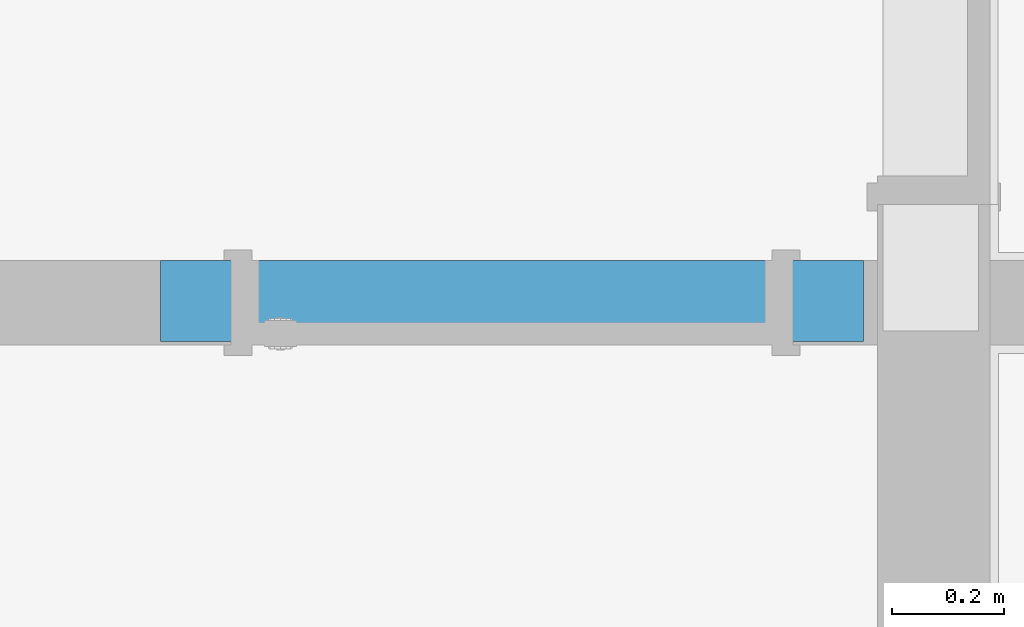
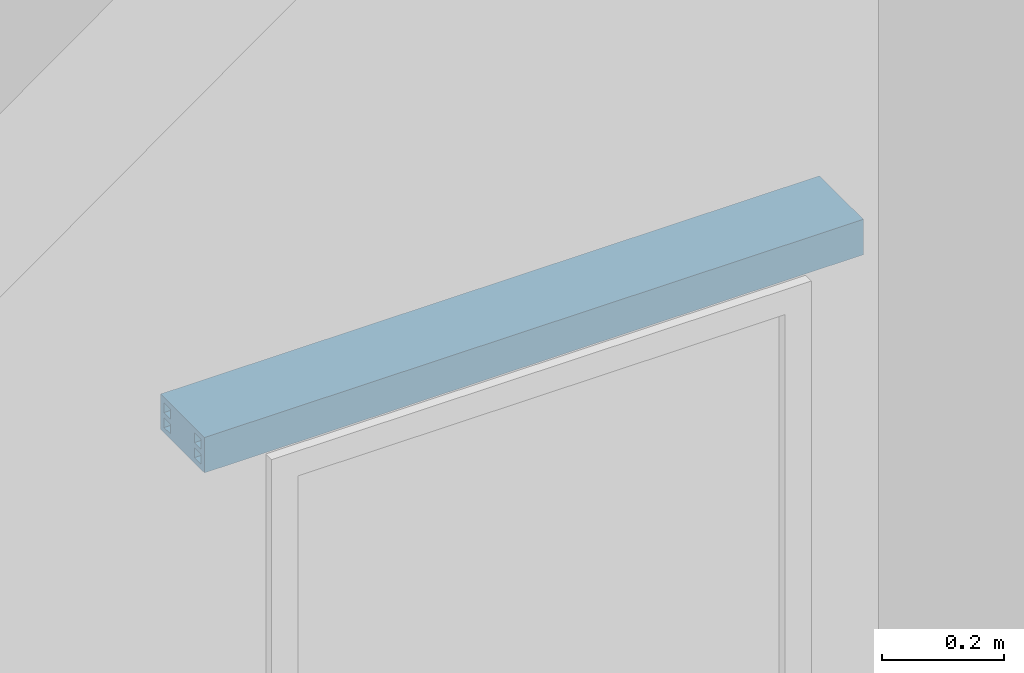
# One storey, part 5 of 21: 1 beam.
"""IFC4 building model written with IfcOpenShell, lengths in millimetres."""

from ifc_helpers import new_model, entity, si_unit, converted_unit, derived_unit, direction, frame, origin_with_axes, place, context, subcontext, project, spatial, polygons, source, transform, mapped, type_object, element, save


model = new_model("IFC4")

# Units and contexts
model_context = context("Model", 3, precision=0.01, world=origin_with_axes(), true_north=direction((0.0, 1.0)))
body_context = subcontext(model_context, "Body", "Model", "MODEL_VIEW")
ifc_project = project(units=[si_unit("LENGTHUNIT", "METRE", prefix="MILLI"), si_unit("AREAUNIT", "SQUARE_METRE"), si_unit("VOLUMEUNIT", "CUBIC_METRE"), converted_unit("PLANEANGLEUNIT", "DEGREE", entity("IfcPlaneAngleMeasure", 0.0174532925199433), si_unit("PLANEANGLEUNIT", "RADIAN"), dimensions=[0, 0, 0, 0, 0, 0, 0]), converted_unit("TIMEUNIT", "Year", entity("IfcTimeMeasure", 31557600.0), si_unit("TIMEUNIT", "SECOND"), dimensions=[0, 0, 1, 0, 0, 0, 0]), si_unit("MASSUNIT", "GRAM", prefix="KILO"), si_unit("THERMODYNAMICTEMPERATUREUNIT", "DEGREE_CELSIUS"), si_unit("LUMINOUSINTENSITYUNIT", "LUMEN"), si_unit("ENERGYUNIT", "JOULE", prefix="MEGA"), derived_unit("THERMALCONDUCTANCEUNIT", [(si_unit("POWERUNIT", "WATT"), 1), (si_unit("LENGTHUNIT", "METRE"), -1), (si_unit("THERMODYNAMICTEMPERATUREUNIT", "KELVIN"), -1)]), derived_unit("SPECIFICHEATCAPACITYUNIT", [(si_unit("ENERGYUNIT", "JOULE"), 1), (si_unit("MASSUNIT", "GRAM", prefix="KILO"), -1), (si_unit("THERMODYNAMICTEMPERATUREUNIT", "KELVIN"), -1)]), derived_unit("MASSDENSITYUNIT", [(si_unit("MASSUNIT", "GRAM", prefix="KILO"), 1), (si_unit("VOLUMEUNIT", "CUBIC_METRE"), -1)])], contexts=[model_context])

# Site, building, storey
site_placement = place(None, origin_with_axes())
site = spatial("IfcSite", under=ifc_project, at=site_placement, Name="Exteriér", CompositionType="ELEMENT")
building_placement = place(site_placement, origin_with_axes())
building = spatial("IfcBuilding", under=site, at=building_placement, Name="Univerzitní lezecké centrum", CompositionType="ELEMENT")
storey_placement = place(building_placement, frame((0.0, 0.0, -3350.0), z_axis=(0.0, 0.0, 1.0), x_axis=(1.0, 0.0, 0.0)))
storey = spatial("IfcBuildingStorey", under=building, at=storey_placement, Name="1.PP", CompositionType="ELEMENT", Elevation=-3350.0)

# Beam
beam_type = type_object("IfcBeamType", Name="PTH Překlad KP 11,5 a 14,5", PredefinedType="BEAM")
shared_shape = source(origin_with_axes(), body_context, "Body", "Tessellation", [
    polygons([(-625.0, 44.3486623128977, 71.00000000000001), (-625.0, 0.0, 71.00000000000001), (625.0, 0.0, 71.00000000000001), (625.0, 44.34866231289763, 71.00000000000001), (-625.0, 44.34866231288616, 36.49999605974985), (-625.0, 46.47223501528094, 31.73716465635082), (-625.0, 49.39641603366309, 27.4240948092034), (-625.0, 53.02998777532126, 23.69532943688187), (-625.0, 57.25960374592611, 20.66718452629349), (-625.0, 61.95332430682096, 18.4341207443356), (-625.0, 66.96473243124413, 17.06579680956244), (-625.0, 72.13750107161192, 16.60489654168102), (-625.0, 77.31026966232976, 17.06579737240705), (-625.0, 82.32167763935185, 18.43412185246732), (-625.0, 87.01539795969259, 20.66718614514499), (-625.0, 91.24501360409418, 23.69533151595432), (-625.0, 94.87858494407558, 27.42409728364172), (-625.0, 97.80276549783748, 31.7371674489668), (-625.0, 99.92633768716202, 36.49999908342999), (-625.0, 99.926337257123, 71.00000000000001), (-625.0, 144.274998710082, 71.0), (-625.0, 144.274998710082, 0.0), (-625.0, 0.0, 0.0), (-625.0, 11.4425, 10.49963740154), (-625.0, 33.3325, 10.49963740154), (-625.0, 33.3325, 30.49963740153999), (-625.0, 11.4425, 30.49963740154), (-625.0, 11.4425, 40.5), (-625.0, 33.3325, 40.5), (-625.0, 33.33250000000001, 60.5), (-625.0, 11.4425, 60.5), (-625.0, 132.83136377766, 10.49963740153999), (-625.0, 132.83136377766, 30.49963740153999), (-625.0, 110.94136377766, 30.49963740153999), (-625.0, 110.94136377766, 10.49963740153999), (-625.0, 110.94136377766, 60.49999999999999), (-625.0, 110.94136377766, 40.49999999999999), (-625.0, 132.83136377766, 40.49999999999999), (-625.0, 132.83136377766, 60.49999999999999), (625.0, 0.0, 0.0), (625.0, 144.2749987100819, 0.0), (625.0, 144.2749987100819, 71.0), (625.0, 99.92633725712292, 71.00000000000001), (625.0, 99.92633768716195, 36.49999908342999), (625.0, 97.80276549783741, 31.7371674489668), (625.0, 94.87858494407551, 27.42409728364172), (625.0, 91.24501360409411, 23.69533151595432), (625.0, 87.01539795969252, 20.66718614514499), (625.0, 82.32167763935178, 18.43412185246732), (625.0, 77.31026966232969, 17.06579737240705), (625.0, 72.13750107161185, 16.60489654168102), (625.0, 66.96473243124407, 17.06579680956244), (625.0, 61.95332430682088, 18.4341207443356), (625.0, 57.25960374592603, 20.66718452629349), (625.0, 53.02998777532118, 23.69532943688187), (625.0, 49.39641603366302, 27.4240948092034), (625.0, 46.47223501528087, 31.73716465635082), (625.0, 44.34866231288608, 36.49999605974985), (625.0, 11.44249999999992, 10.49963740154), (625.0, 11.44249999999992, 30.49963740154), (625.0, 33.33249999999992, 30.49963740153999), (625.0, 33.33249999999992, 10.49963740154), (625.0, 11.44249999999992, 40.5), (625.0, 11.44249999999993, 60.5), (625.0, 33.33249999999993, 60.5), (625.0, 33.33249999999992, 40.5), (625.0, 132.8313637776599, 10.49963740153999), (625.0, 110.9413637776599, 10.49963740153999), (625.0, 110.9413637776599, 30.49963740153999), (625.0, 132.8313637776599, 30.49963740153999), (625.0, 110.9413637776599, 60.49999999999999), (625.0, 132.8313637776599, 60.49999999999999), (625.0, 132.8313637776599, 40.49999999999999), (625.0, 110.9413637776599, 40.49999999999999)], [[[1, 2, 3, 4]], [[1, 5, 6, 7, 8, 9, 10, 11, 12, 13, 14, 15, 16, 17, 18, 19, 20, 21, 22, 23, 2], [24, 25, 26, 27], [28, 29, 30, 31], [32, 33, 34, 35], [36, 37, 38, 39]], [[2, 23, 40, 3]], [[4, 3, 40, 41, 42, 43, 44, 45, 46, 47, 48, 49, 50, 51, 52, 53, 54, 55, 56, 57, 58], [59, 60, 61, 62], [63, 64, 65, 66], [67, 68, 69, 70], [71, 72, 73, 74]], [[5, 1, 4, 58]], [[6, 5, 58, 57]], [[7, 6, 57, 56]], [[8, 7, 56, 55]], [[9, 8, 55, 54]], [[10, 9, 54, 53]], [[11, 10, 53, 52]], [[12, 11, 52, 51]], [[13, 12, 51, 50]], [[14, 13, 50, 49]], [[15, 14, 49, 48]], [[16, 15, 48, 47]], [[17, 16, 47, 46]], [[18, 17, 46, 45]], [[19, 18, 45, 44]], [[20, 19, 44, 43]], [[21, 20, 43, 42]], [[22, 21, 42, 41]], [[23, 22, 41, 40]], [[25, 24, 59, 62]], [[26, 25, 62, 61]], [[27, 26, 61, 60]], [[24, 27, 60, 59]], [[29, 28, 63, 66]], [[30, 29, 66, 65]], [[31, 30, 65, 64]], [[28, 31, 64, 63]], [[33, 32, 67, 70]], [[34, 33, 70, 69]], [[35, 34, 69, 68]], [[32, 35, 68, 67]], [[37, 36, 71, 74]], [[38, 37, 74, 73]], [[39, 38, 73, 72]], [[36, 39, 72, 71]]], closed=True),
    polygons([(-625.0, 44.34866231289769, 36.5), (-625.0, 46.47223492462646, 31.73716874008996), (625.0, 46.47223492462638, 31.73716874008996), (625.0, 44.34866231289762, 36.5), (-625.0, 44.3486623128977, 71.00000000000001), (-625.0, 99.926337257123, 71.00000000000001), (-625.0, 99.92633725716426, 36.50000000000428), (-625.0, 97.80276464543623, 31.7371687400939), (-625.0, 94.87858377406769, 27.42409899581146), (-625.0, 91.24501222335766, 23.69533367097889), (-625.0, 87.0153964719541, 20.66718874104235), (-625.0, 82.32167614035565, 18.43412486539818), (-625.0, 77.31026823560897, 17.06580075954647), (-625.0, 72.1374997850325, 16.60490024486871), (-625.0, 66.96473133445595, 17.06580075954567), (-625.0, 61.95332342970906, 18.4341248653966), (-625.0, 57.25960309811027, 20.66718874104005), (-625.0, 53.02998734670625, 23.69533367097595), (-625.0, 49.39641579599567, 27.42409899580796), (-625.0, 78.10749978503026, 42.49999925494), (-625.0, 78.01680207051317, 43.54188832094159), (-625.0, 77.74746473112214, 44.55212011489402), (-625.0, 77.30767144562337, 45.49999925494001), (-625.0, 76.71078511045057, 46.35672491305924), (-625.0, 75.97494181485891, 47.09626591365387), (-625.0, 75.12249978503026, 47.69615167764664), (-625.0, 74.17936004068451, 48.13815497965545), (-625.0, 73.17417940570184, 48.40884577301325), (-625.0, 72.13749978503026, 48.49999925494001), (-625.0, 71.1008201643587, 48.40884577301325), (-625.0, 70.09563952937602, 48.13815497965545), (-625.0, 69.15249978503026, 47.69615167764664), (-625.0, 68.30005775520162, 47.09626591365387), (-625.0, 67.56421445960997, 46.35672491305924), (-625.0, 66.96732812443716, 45.49999925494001), (-625.0, 66.5275348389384, 44.55212011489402), (-625.0, 66.25819749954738, 43.54188832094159), (-625.0, 66.16749978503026, 42.49999925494), (-625.0, 66.25819749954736, 41.45811018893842), (-625.0, 66.52753483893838, 40.44787839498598), (-625.0, 66.96732812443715, 39.49999925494), (-625.0, 67.56421445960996, 38.64327359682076), (-625.0, 68.3000577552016, 37.90373259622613), (-625.0, 69.15249978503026, 37.30384683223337), (-625.0, 70.09563952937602, 36.86184353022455), (-625.0, 71.1008201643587, 36.59115273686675), (-625.0, 72.13749978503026, 36.49999925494), (-625.0, 73.17417940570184, 36.59115273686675), (-625.0, 74.17936004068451, 36.86184353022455), (-625.0, 75.12249978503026, 37.30384683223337), (-625.0, 75.9749418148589, 37.90373259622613), (-625.0, 76.71078511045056, 38.64327359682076), (-625.0, 77.30767144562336, 39.49999925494), (-625.0, 77.74746473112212, 40.44787839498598), (-625.0, 78.01680207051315, 41.45811018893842), (625.0, 49.39641579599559, 27.42409899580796), (625.0, 53.02998734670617, 23.69533367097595), (625.0, 57.25960309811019, 20.66718874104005), (625.0, 61.95332342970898, 18.4341248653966), (625.0, 66.96473133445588, 17.06580075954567), (625.0, 72.13749978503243, 16.60490024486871), (625.0, 77.3102682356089, 17.06580075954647), (625.0, 82.32167614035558, 18.43412486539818), (625.0, 87.01539647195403, 20.66718874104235), (625.0, 91.24501222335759, 23.69533367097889), (625.0, 94.87858377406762, 27.42409899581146), (625.0, 97.80276464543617, 31.7371687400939), (625.0, 99.92633725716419, 36.50000000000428), (625.0, 99.92633725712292, 71.00000000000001), (625.0, 44.34866231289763, 71.00000000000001), (625.0, 78.10749978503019, 42.49999925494), (625.0, 78.01680207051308, 41.45811018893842), (625.0, 77.74746473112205, 40.44787839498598), (625.0, 77.30767144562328, 39.49999925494), (625.0, 76.71078511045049, 38.64327359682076), (625.0, 75.97494181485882, 37.90373259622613), (625.0, 75.12249978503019, 37.30384683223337), (625.0, 74.17936004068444, 36.86184353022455), (625.0, 73.17417940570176, 36.59115273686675), (625.0, 72.13749978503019, 36.49999925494), (625.0, 71.10082016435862, 36.59115273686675), (625.0, 70.09563952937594, 36.86184353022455), (625.0, 69.15249978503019, 37.30384683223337), (625.0, 68.30005775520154, 37.90373259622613), (625.0, 67.56421445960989, 38.64327359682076), (625.0, 66.96732812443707, 39.49999925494), (625.0, 66.52753483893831, 40.44787839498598), (625.0, 66.2581974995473, 41.45811018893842), (625.0, 66.16749978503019, 42.49999925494), (625.0, 66.25819749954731, 43.54188832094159), (625.0, 66.52753483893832, 44.55212011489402), (625.0, 66.96732812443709, 45.49999925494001), (625.0, 67.5642144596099, 46.35672491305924), (625.0, 68.30005775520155, 47.09626591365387), (625.0, 69.15249978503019, 47.69615167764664), (625.0, 70.09563952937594, 48.13815497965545), (625.0, 71.10082016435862, 48.40884577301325), (625.0, 72.13749978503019, 48.49999925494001), (625.0, 73.17417940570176, 48.40884577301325), (625.0, 74.17936004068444, 48.13815497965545), (625.0, 75.12249978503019, 47.69615167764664), (625.0, 75.97494181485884, 47.09626591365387), (625.0, 76.7107851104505, 46.35672491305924), (625.0, 77.3076714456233, 45.49999925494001), (625.0, 77.74746473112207, 44.55212011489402), (625.0, 78.0168020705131, 43.54188832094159)], [[[1, 2, 3, 4]], [[1, 5, 6, 7, 8, 9, 10, 11, 12, 13, 14, 15, 16, 17, 18, 19, 2], [20, 21, 22, 23, 24, 25, 26, 27, 28, 29, 30, 31, 32, 33, 34, 35, 36, 37, 38, 39, 40, 41, 42, 43, 44, 45, 46, 47, 48, 49, 50, 51, 52, 53, 54, 55]], [[2, 19, 56, 3]], [[4, 3, 56, 57, 58, 59, 60, 61, 62, 63, 64, 65, 66, 67, 68, 69, 70], [71, 72, 73, 74, 75, 76, 77, 78, 79, 80, 81, 82, 83, 84, 85, 86, 87, 88, 89, 90, 91, 92, 93, 94, 95, 96, 97, 98, 99, 100, 101, 102, 103, 104, 105, 106]], [[5, 1, 4, 70]], [[6, 5, 70, 69]], [[7, 6, 69, 68]], [[8, 7, 68, 67]], [[9, 8, 67, 66]], [[10, 9, 66, 65]], [[11, 10, 65, 64]], [[12, 11, 64, 63]], [[13, 12, 63, 62]], [[14, 13, 62, 61]], [[15, 14, 61, 60]], [[16, 15, 60, 59]], [[17, 16, 59, 58]], [[18, 17, 58, 57]], [[19, 18, 57, 56]], [[21, 20, 71, 106]], [[22, 21, 106, 105]], [[23, 22, 105, 104]], [[24, 23, 104, 103]], [[25, 24, 103, 102]], [[26, 25, 102, 101]], [[27, 26, 101, 100]], [[28, 27, 100, 99]], [[29, 28, 99, 98]], [[30, 29, 98, 97]], [[31, 30, 97, 96]], [[32, 31, 96, 95]], [[33, 32, 95, 94]], [[34, 33, 94, 93]], [[35, 34, 93, 92]], [[36, 35, 92, 91]], [[37, 36, 91, 90]], [[38, 37, 90, 89]], [[39, 38, 89, 88]], [[40, 39, 88, 87]], [[41, 40, 87, 86]], [[42, 41, 86, 85]], [[43, 42, 85, 84]], [[44, 43, 84, 83]], [[45, 44, 83, 82]], [[46, 45, 82, 81]], [[47, 46, 81, 80]], [[48, 47, 80, 79]], [[49, 48, 79, 78]], [[50, 49, 78, 77]], [[51, 50, 77, 76]], [[52, 51, 76, 75]], [[53, 52, 75, 74]], [[54, 53, 74, 73]], [[55, 54, 73, 72]], [[20, 55, 72, 71]]], closed=True),
    polygons([(-625.0, 66.16749978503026, 42.49999925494), (-625.0, 66.25819749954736, 41.45811018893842), (625.0, 66.2581974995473, 41.45811018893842), (625.0, 66.16749978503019, 42.49999925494), (-625.0, 66.25819749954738, 43.54188832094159), (-625.0, 66.5275348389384, 44.55212011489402), (-625.0, 66.96732812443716, 45.49999925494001), (-625.0, 67.56421445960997, 46.35672491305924), (-625.0, 68.30005775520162, 47.09626591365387), (-625.0, 69.15249978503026, 47.69615167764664), (-625.0, 70.09563952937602, 48.13815497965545), (-625.0, 71.1008201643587, 48.40884577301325), (-625.0, 72.13749978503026, 48.49999925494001), (-625.0, 73.17417940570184, 48.40884577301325), (-625.0, 74.17936004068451, 48.13815497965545), (-625.0, 75.12249978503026, 47.69615167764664), (-625.0, 75.97494181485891, 47.09626591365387), (-625.0, 76.71078511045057, 46.35672491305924), (-625.0, 77.30767144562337, 45.49999925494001), (-625.0, 77.74746473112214, 44.55212011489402), (-625.0, 78.01680207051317, 43.54188832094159), (-625.0, 78.10749978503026, 42.49999925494), (-625.0, 78.01680207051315, 41.45811018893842), (-625.0, 77.74746473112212, 40.44787839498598), (-625.0, 77.30767144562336, 39.49999925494), (-625.0, 76.71078511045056, 38.64327359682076), (-625.0, 75.9749418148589, 37.90373259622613), (-625.0, 75.12249978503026, 37.30384683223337), (-625.0, 74.17936004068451, 36.86184353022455), (-625.0, 73.17417940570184, 36.59115273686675), (-625.0, 72.13749978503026, 36.49999925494), (-625.0, 71.1008201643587, 36.59115273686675), (-625.0, 70.09563952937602, 36.86184353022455), (-625.0, 69.15249978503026, 37.30384683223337), (-625.0, 68.3000577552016, 37.90373259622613), (-625.0, 67.56421445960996, 38.64327359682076), (-625.0, 66.96732812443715, 39.49999925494), (-625.0, 66.52753483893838, 40.44787839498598), (625.0, 66.52753483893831, 40.44787839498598), (625.0, 66.96732812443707, 39.49999925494), (625.0, 67.56421445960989, 38.64327359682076), (625.0, 68.30005775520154, 37.90373259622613), (625.0, 69.15249978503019, 37.30384683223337), (625.0, 70.09563952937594, 36.86184353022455), (625.0, 71.10082016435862, 36.59115273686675), (625.0, 72.13749978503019, 36.49999925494), (625.0, 73.17417940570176, 36.59115273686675), (625.0, 74.17936004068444, 36.86184353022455), (625.0, 75.12249978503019, 37.30384683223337), (625.0, 75.97494181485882, 37.90373259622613), (625.0, 76.71078511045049, 38.64327359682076), (625.0, 77.30767144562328, 39.49999925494), (625.0, 77.74746473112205, 40.44787839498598), (625.0, 78.01680207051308, 41.45811018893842), (625.0, 78.10749978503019, 42.49999925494), (625.0, 78.0168020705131, 43.54188832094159), (625.0, 77.74746473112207, 44.55212011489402), (625.0, 77.3076714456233, 45.49999925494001), (625.0, 76.7107851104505, 46.35672491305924), (625.0, 75.97494181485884, 47.09626591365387), (625.0, 75.12249978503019, 47.69615167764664), (625.0, 74.17936004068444, 48.13815497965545), (625.0, 73.17417940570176, 48.40884577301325), (625.0, 72.13749978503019, 48.49999925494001), (625.0, 71.10082016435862, 48.40884577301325), (625.0, 70.09563952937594, 48.13815497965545), (625.0, 69.15249978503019, 47.69615167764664), (625.0, 68.30005775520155, 47.09626591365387), (625.0, 67.5642144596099, 46.35672491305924), (625.0, 66.96732812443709, 45.49999925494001), (625.0, 66.52753483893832, 44.55212011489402), (625.0, 66.25819749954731, 43.54188832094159)], [[[1, 2, 3, 4]], [[1, 5, 6, 7, 8, 9, 10, 11, 12, 13, 14, 15, 16, 17, 18, 19, 20, 21, 22, 23, 24, 25, 26, 27, 28, 29, 30, 31, 32, 33, 34, 35, 36, 37, 38, 2]], [[2, 38, 39, 3]], [[4, 3, 39, 40, 41, 42, 43, 44, 45, 46, 47, 48, 49, 50, 51, 52, 53, 54, 55, 56, 57, 58, 59, 60, 61, 62, 63, 64, 65, 66, 67, 68, 69, 70, 71, 72]], [[5, 1, 4, 72]], [[6, 5, 72, 71]], [[7, 6, 71, 70]], [[8, 7, 70, 69]], [[9, 8, 69, 68]], [[10, 9, 68, 67]], [[11, 10, 67, 66]], [[12, 11, 66, 65]], [[13, 12, 65, 64]], [[14, 13, 64, 63]], [[15, 14, 63, 62]], [[16, 15, 62, 61]], [[17, 16, 61, 60]], [[18, 17, 60, 59]], [[19, 18, 59, 58]], [[20, 19, 58, 57]], [[21, 20, 57, 56]], [[22, 21, 56, 55]], [[23, 22, 55, 54]], [[24, 23, 54, 53]], [[25, 24, 53, 52]], [[26, 25, 52, 51]], [[27, 26, 51, 50]], [[28, 27, 50, 49]], [[29, 28, 49, 48]], [[30, 29, 48, 47]], [[31, 30, 47, 46]], [[32, 31, 46, 45]], [[33, 32, 45, 44]], [[34, 33, 44, 43]], [[35, 34, 43, 42]], [[36, 35, 42, 41]], [[37, 36, 41, 40]], [[38, 37, 40, 39]]], closed=True),
])
beam_placement = place(storey_placement, frame((6200.112166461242, 949.9999999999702, 2030.0), z_axis=(0.0, 0.0, 1.0), x_axis=(-1.0, 0.0, 0.0)))
element("IfcBeam", 1, at=beam_placement, inside=storey, type_object=beam_type, Name="Pk02", PredefinedType="BEAM", context=body_context, shape_type="MappedRepresentation", body=[
    mapped(shared_shape, transform((0.0, 0.0, 0.0))),
])

save(model, "model.ifc")
